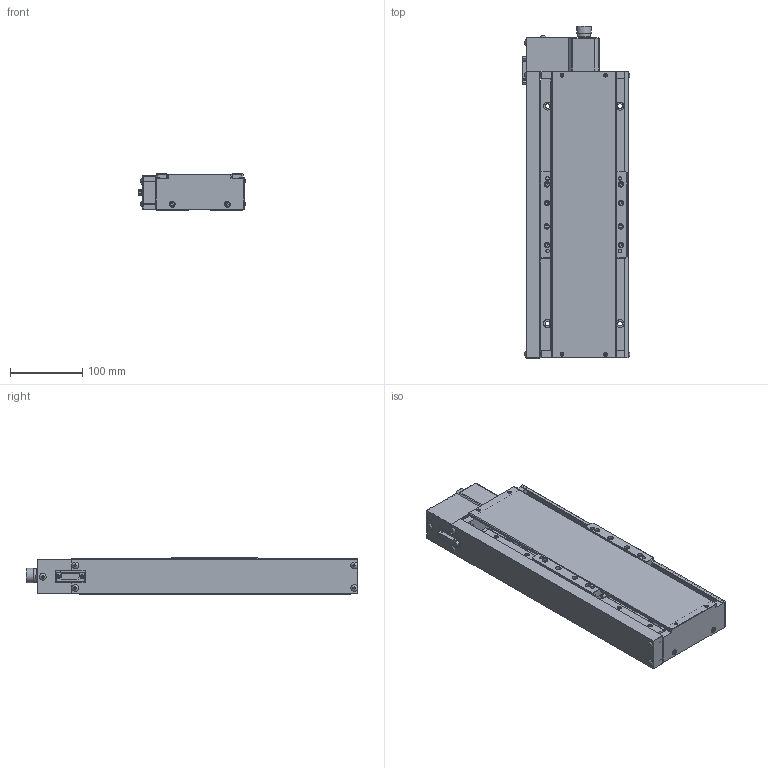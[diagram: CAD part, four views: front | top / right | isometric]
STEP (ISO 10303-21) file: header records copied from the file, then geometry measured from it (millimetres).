
FILE_DESCRIPTION(/* description */ (''),/* implementation_level */ '2;1');
FILE_NAME(/* name */ 'Z:\1_motorized_stages\01_国内製品\34_KLSS(A)\\X2\25A1\X0\120\KLSA-200X\KLSA-200X_STP.stp',/* time_stamp */ '2015-12-22T14:28:45+09:00',/* author */ ('y.hoshiba'),/* organization */ (''),/* preprocessor_version */ 'ST-DEVELOPER v15.6',/* originating_system */ 'Autodesk Inventor 2015',/* authorisation */ '');
FILE_SCHEMA (('AUTOMOTIVE_DESIGN { 1 0 10303 214 3 1 1 }'));
Products named in the file (3): KLSA120-M02-14001-S23; KLSA120-M02-14001-S22; KLSA120-M02-14001-TS01
Bounding box: 148.49 x 458 x 50 mm (x, y, z)
Volume: 1232455.2 mm3; surface area: 483437.8 mm2
Topology: 2 solids, 115 shells, 3360 faces, 8495 edges, 5553 vertices
Faces by surface type: plane 2060, cylinder 908, cone 340, torus 30, bspline 12, sphere 10
Full cylindrical faces by diameter (mm): 1 x4, 2 x12, 2.013 x4, 2.113 x6, 2.459 x25, 2.6 x6, 3 x24, 3.242 x43, 3.5 x16, 4 x34, 4.113 x2, 4.134 x8, 4.3 x4, 4.5 x55, 4.917 x5, 5 x14, 5.5 x27, 5.7 x1, 6 x31, 6.647 x8, 7 x23, 7.5 x20, 8 x13, 8.2 x2, 8.5 x8, 8.6 x1, 9.4 x10, 10 x2, 11 x8, 11.5 x3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
Entity records: 99797 total; most frequent: CARTESIAN_POINT 18786, DIRECTION 16103, ORIENTED_EDGE 15078, EDGE_CURVE 7537, AXIS2_PLACEMENT_3D 5632, VERTEX_POINT 5241, LINE 4839, VECTOR 4839
